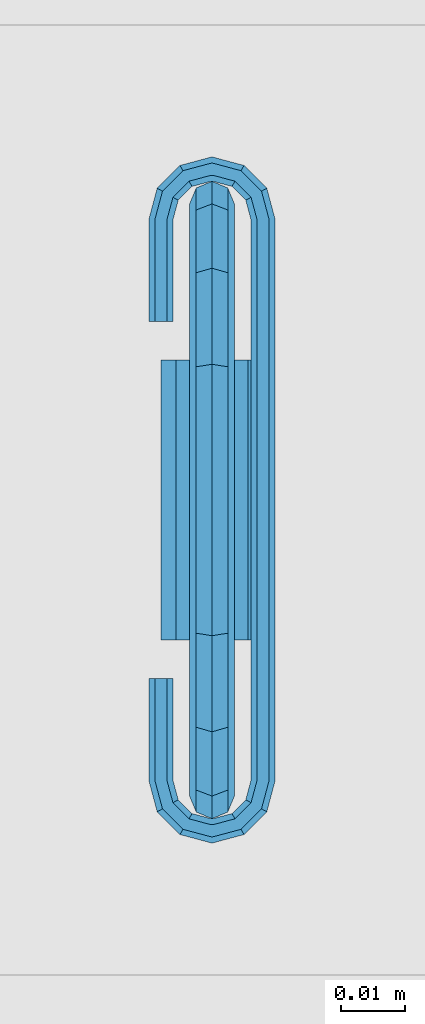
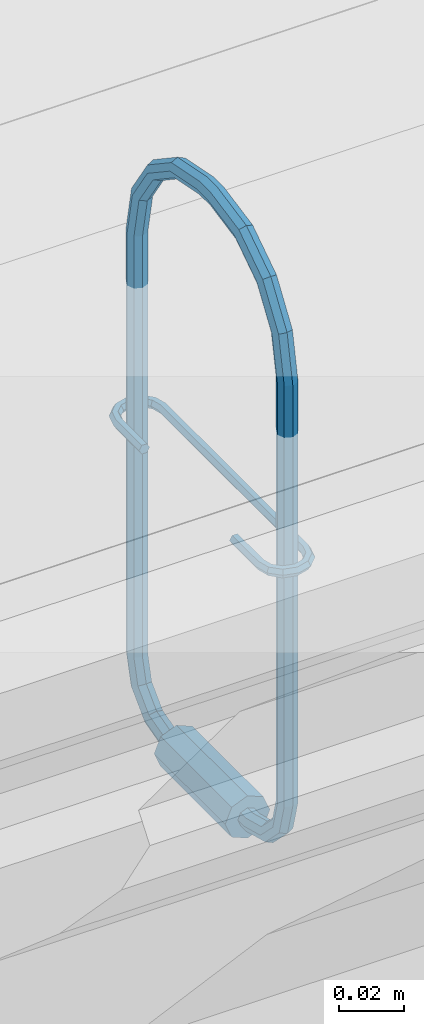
# One storey, part 165 of 230: 1 beam.
"""IFC4X3_ADD2 building model written with IfcOpenShell, lengths in millimetres."""

from ifc_helpers import new_model, si_unit, direction, origin_with_axes, place, context, subcontext, project, spatial, triangles, element, save


model = new_model("IFC4X3_ADD2")

# Units and contexts
model_context = context("Model", 3, precision=1e-05, world=origin_with_axes(), true_north=direction((0.0, 1.0)))
body_context = subcontext(model_context, "Body", "Model", "MODEL_VIEW")
ifc_project = project(units=[si_unit("LENGTHUNIT", "METRE", prefix="MILLI"), si_unit("AREAUNIT", "SQUARE_METRE"), si_unit("VOLUMEUNIT", "CUBIC_METRE"), si_unit("PLANEANGLEUNIT", "RADIAN"), si_unit("TIMEUNIT", "SECOND"), si_unit("MASSUNIT", "GRAM")], contexts=[model_context])

# Site, building, storey
site_placement = place(None, origin_with_axes())
site = spatial("IfcSite", under=ifc_project, at=site_placement, Name="Site", CompositionType="ELEMENT")
building_placement = place(site_placement, origin_with_axes())
building = spatial("IfcBuilding", under=site, at=building_placement, Name="IFC Building Story")
storey_placement = place(building_placement, origin_with_axes())
storey = spatial("IfcBuildingStorey", under=building, at=storey_placement, Name="ETAGE 00 (0)", Elevation=0.0)

# Beam
beam_placement = place(storey_placement, origin_with_axes())
element("IfcBeam", 1, at=beam_placement, inside=storey, Name="LU2", ObjectType="D7", context=body_context, shape_type="Tessellation", body=[
    triangles([(47798.66381835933, -12884.49959106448, 4036.025157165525), (47798.66381835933, -12888.00054016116, 4036.025157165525), (47796.18955078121, -12884.49959106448, 4034.999929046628), (47796.18955078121, -12888.00054016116, 4034.999929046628), (47799.68701171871, -12884.49959106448, 4038.500006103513), (47799.68701171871, -12888.00054016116, 4038.500006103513), (47798.66381835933, -12888.00054016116, 4040.974855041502), (47798.66381835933, -12884.49959106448, 4040.974855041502), (47796.18955078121, -12888.00054016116, 4042.000083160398), (47796.18955078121, -12884.49959106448, 4042.000083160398), (47793.71528320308, -12888.00054016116, 4040.974855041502), (47793.71528320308, -12884.49959106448, 4040.974855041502), (47792.6874389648, -12888.00054016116, 4038.500006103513), (47792.6874389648, -12884.49959106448, 4038.500006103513), (47793.71528320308, -12884.49959106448, 4036.025157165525), (47793.71528320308, -12888.00054016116, 4036.025157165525), (47796.18955078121, -12872.25033874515, 4038.282286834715), (47793.71528320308, -12872.76309814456, 4039.170023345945), (47796.18955078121, -12863.28228149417, 4047.250053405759), (47793.71528320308, -12864.17059936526, 4047.762522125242), (47798.66381835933, -12864.17059936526, 4047.762522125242), (47798.66381835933, -12872.76309814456, 4039.170023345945), (47799.68701171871, -12866.31349182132, 4048.999946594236), (47799.68701171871, -12874.00023193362, 4041.313497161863), (47798.66381835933, -12875.23736572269, 4043.456680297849), (47798.66381835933, -12868.45638427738, 4050.237371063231), (47796.18955078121, -12875.7501251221, 4044.34441680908), (47796.18955078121, -12869.34470214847, 4050.750130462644), (47793.71528320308, -12868.45638427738, 4050.237371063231), (47793.71528320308, -12875.23736572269, 4043.456680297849), (47792.6874389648, -12866.31349182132, 4048.999946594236), (47792.6874389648, -12874.00023193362, 4041.313497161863), (47793.71528320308, -12861.02544250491, 4059.499887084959), (47792.6874389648, -12863.49971008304, 4059.499887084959), (47796.18955078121, -12859.99992370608, 4059.499887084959), (47798.66381835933, -12861.02544250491, 4059.499887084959), (47799.68701171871, -12863.49971008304, 4059.499887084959), (47798.66381835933, -12865.97514038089, 4059.499887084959), (47796.18955078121, -12866.99949645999, 4059.499887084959), (47793.71528320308, -12865.97514038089, 4059.499887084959), (47793.71528320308, -12865.97514038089, 4218.50006561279), (47792.6874389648, -12863.49971008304, 4218.50006561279), (47793.71528320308, -12869.05983581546, 4234.008421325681), (47792.6874389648, -12866.77276611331, 4234.955456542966), (47793.71528320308, -12877.84418334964, 4247.155583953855), (47792.6874389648, -12876.09429016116, 4248.905477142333), (47793.71528320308, -12874.34439697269, 4250.65566101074), (47793.71528320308, -12864.48685913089, 4235.902491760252), (47796.18955078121, -12873.62002258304, 4251.38032608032), (47796.18955078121, -12863.53924255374, 4236.294909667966), (47798.66381835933, -12874.34439697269, 4250.65566101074), (47798.66381835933, -12864.48685913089, 4235.902491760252), (47799.68701171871, -12876.09429016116, 4248.905477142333), (47799.68701171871, -12866.77276611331, 4234.955456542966), (47798.66381835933, -12869.05983581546, 4234.008421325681), (47798.66381835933, -12877.84418334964, 4247.155583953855), (47796.18955078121, -12870.00628967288, 4233.616003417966), (47796.18955078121, -12878.56972045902, 4246.430628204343), (47796.18955078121, -12891.38405456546, 4254.993186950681), (47793.71528320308, -12890.99221801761, 4255.940222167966), (47792.6874389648, -12890.04460144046, 4258.226710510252), (47793.71528320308, -12889.09698486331, 4260.513198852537), (47796.18955078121, -12888.70514831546, 4261.460524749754), (47798.66381835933, -12889.09698486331, 4260.513198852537), (47799.68701171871, -12890.04460144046, 4258.226710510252), (47798.66381835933, -12890.99221801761, 4255.940222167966), (47798.66381835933, -12906.49941101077, 4259.025208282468), (47796.18955078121, -12906.49941101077, 4257.999980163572), (47793.71528320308, -12906.49941101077, 4259.025208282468), (47792.6874389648, -12906.49941101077, 4261.500057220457), (47793.71528320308, -12906.49941101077, 4263.974906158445), (47796.18955078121, -12906.49941101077, 4265.000134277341), (47798.66381835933, -12906.49941101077, 4263.974906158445), (47799.68701171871, -12906.49941101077, 4261.500057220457), (47799.68701171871, -12913.5001464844, 4261.500057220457), (47798.66381835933, -12913.5001464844, 4259.025208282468), (47799.68701171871, -12929.95495605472, 4258.226710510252), (47798.66381835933, -12929.0085021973, 4255.940222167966), (47799.68701171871, -12943.90526733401, 4248.905477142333), (47798.66381835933, -12942.15537414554, 4247.155583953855), (47796.18955078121, -12928.61550292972, 4254.993186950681), (47796.18955078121, -12941.43099975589, 4246.430628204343), (47793.71528320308, -12942.15537414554, 4247.155583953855), (47793.71528320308, -12929.0085021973, 4255.940222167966), (47792.6874389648, -12943.90526733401, 4248.905477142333), (47792.6874389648, -12929.95495605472, 4258.226710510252), (47793.71528320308, -12945.65516052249, 4250.65566101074), (47793.71528320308, -12930.90257263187, 4260.513198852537), (47796.18955078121, -12946.38069763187, 4251.38032608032), (47796.18955078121, -12931.29440917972, 4261.460524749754), (47798.66381835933, -12945.65516052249, 4250.65566101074), (47798.66381835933, -12930.90257263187, 4260.513198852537), (47799.68701171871, -12953.22679138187, 4234.955456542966), (47798.66381835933, -12955.51386108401, 4235.902491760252), (47798.66381835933, -12950.94088439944, 4234.008421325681), (47796.18955078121, -12949.9932678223, 4233.616003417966), (47793.71528320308, -12950.94088439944, 4234.008421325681), (47792.6874389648, -12953.22679138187, 4234.955456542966), (47793.71528320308, -12955.51386108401, 4235.902491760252), (47796.18955078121, -12956.46031494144, 4236.294909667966), (47798.66381835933, -12958.97527770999, 4218.50006561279), (47796.18955078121, -12959.99963378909, 4218.50006561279), (47799.68701171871, -12956.49984741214, 4218.50006561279), (47798.66381835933, -12954.02557983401, 4218.50006561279), (47796.18955078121, -12953.00006103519, 4218.50006561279), (47793.71528320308, -12954.02557983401, 4218.50006561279), (47792.6874389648, -12956.49984741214, 4218.50006561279), (47793.71528320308, -12958.97527770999, 4218.50006561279), (47796.18955078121, -12959.99963378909, 4059.499887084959), (47793.71528320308, -12958.97527770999, 4059.499887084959), (47796.18955078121, -12956.71727600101, 4047.250053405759), (47793.71528320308, -12955.83012084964, 4047.762522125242), (47796.18955078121, -12947.75038146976, 4038.282286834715), (47793.71528320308, -12947.23762207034, 4039.170023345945), (47798.66381835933, -12947.23762207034, 4039.170023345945), (47798.66381835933, -12955.83012084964, 4047.762522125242), (47799.68701171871, -12946.00048828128, 4041.313497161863), (47799.68701171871, -12953.68606567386, 4048.999946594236), (47798.66381835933, -12951.5431732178, 4050.237371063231), (47798.66381835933, -12944.76219177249, 4043.456680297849), (47796.18955078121, -12950.65485534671, 4050.750130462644), (47796.18955078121, -12944.24943237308, 4044.34441680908), (47793.71528320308, -12944.76219177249, 4043.456680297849), (47793.71528320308, -12951.5431732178, 4050.237371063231), (47792.6874389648, -12946.00048828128, 4041.313497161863), (47792.6874389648, -12953.68606567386, 4048.999946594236), (47793.71528320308, -12935.49996643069, 4036.025157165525), (47792.6874389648, -12935.49996643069, 4038.500006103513), (47796.18955078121, -12935.49996643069, 4034.999929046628), (47798.66381835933, -12935.49996643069, 4036.025157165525), (47799.68701171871, -12935.49996643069, 4038.500006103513), (47798.66381835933, -12935.49996643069, 4040.974855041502), (47796.18955078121, -12935.49996643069, 4042.000083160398), (47793.71528320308, -12935.49996643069, 4040.974855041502), (47793.71528320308, -12932.00018005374, 4040.974855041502), (47792.6874389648, -12932.00018005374, 4038.500006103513), (47796.18955078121, -12932.00018005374, 4042.000083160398), (47798.66381835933, -12932.00018005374, 4040.974855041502), (47799.68701171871, -12932.00018005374, 4038.500006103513), (47798.66381835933, -12932.00018005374, 4036.025157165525), (47796.18955078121, -12932.00018005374, 4034.999929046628), (47793.71528320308, -12932.00018005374, 4036.025157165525), (47804.18906249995, -12932.00018005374, 4038.500006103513), (47796.18955078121, -12932.00018005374, 4046.500099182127), (47790.53408203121, -12932.00018005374, 4044.156928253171), (47788.19003906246, -12932.00018005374, 4038.500006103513), (47801.84501953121, -12932.00018005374, 4044.156928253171), (47790.53408203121, -12932.00018005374, 4032.843083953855), (47796.18955078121, -12932.00018005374, 4030.4999130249), (47801.84501953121, -12932.00018005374, 4032.843083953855), (47801.84501953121, -12888.00054016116, 4032.843083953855), (47796.18955078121, -12888.00054016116, 4030.4999130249), (47804.18906249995, -12888.00054016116, 4038.500006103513), (47801.84501953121, -12888.00054016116, 4044.156928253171), (47796.18955078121, -12888.00054016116, 4046.500099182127), (47790.53408203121, -12888.00054016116, 4044.156928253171), (47788.19003906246, -12888.00054016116, 4038.500006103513), (47790.53408203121, -12888.00054016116, 4032.843083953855), (47792.6874389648, -12956.49984741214, 4059.499887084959), (47793.71528320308, -12954.02557983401, 4059.499887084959), (47796.18955078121, -12953.00006103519, 4059.499887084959), (47798.66381835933, -12954.02557983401, 4059.499887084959), (47799.68701171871, -12956.49984741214, 4059.499887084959), (47798.66381835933, -12958.97527770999, 4059.499887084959), (47798.66381835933, -12913.5001464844, 4263.974906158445), (47796.18955078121, -12913.5001464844, 4265.000134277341), (47793.71528320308, -12913.5001464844, 4263.974906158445), (47792.6874389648, -12913.5001464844, 4261.500057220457), (47793.71528320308, -12913.5001464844, 4259.025208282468), (47796.18955078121, -12913.5001464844, 4257.999980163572), (47796.18955078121, -12866.99949645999, 4218.50006561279), (47798.66381835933, -12865.97514038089, 4218.50006561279), (47799.68701171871, -12863.49971008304, 4218.50006561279), (47798.66381835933, -12861.02544250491, 4218.50006561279), (47796.18955078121, -12859.99992370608, 4218.50006561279), (47793.71528320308, -12861.02544250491, 4218.50006561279), (47790.08759765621, -12865.94025878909, 4149.999886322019), (47790.08759765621, -12881.99974365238, 4149.999886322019), (47789.13881835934, -12865.94025878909, 4148.354637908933), (47789.13881835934, -12881.99974365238, 4148.354637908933), (47790.88289794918, -12862.96950988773, 4149.999886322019), (47790.06434326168, -12862.49512023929, 4148.354637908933), (47792.58511962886, -12859.97318115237, 4148.354637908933), (47793.0595092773, -12860.79522399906, 4149.999886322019), (47792.58511962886, -12859.97318115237, 4151.645425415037), (47790.06434326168, -12862.49512023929, 4151.645425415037), (47796.02677001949, -12859.04998168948, 4151.645425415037), (47796.02677001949, -12857.15009765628, 4151.645425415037), (47791.63168945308, -12858.32793273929, 4151.645425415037), (47787.24125976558, -12954.06046142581, 4151.645425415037), (47790.06434326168, -12957.50443725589, 4151.645425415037), (47789.13881835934, -12954.06046142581, 4151.645425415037), (47787.24125976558, -12937.9998138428, 4151.645425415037), (47788.41793212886, -12958.45554199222, 4151.645425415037), (47789.13881835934, -12937.9998138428, 4151.645425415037), (47791.63168945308, -12961.67278747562, 4151.645425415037), (47796.02677001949, -12960.94957580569, 4151.645425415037), (47792.58511962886, -12960.0263763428, 4151.645425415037), (47796.02677001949, -12962.8494598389, 4151.645425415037), (47787.24125976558, -12865.94025878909, 4151.645425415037), (47788.41793212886, -12861.54517822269, 4151.645425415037), (47787.24125976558, -12881.99974365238, 4151.645425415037), (47789.13881835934, -12865.94025878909, 4151.645425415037), (47789.13881835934, -12881.99974365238, 4151.645425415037), (47799.79398193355, -12960.0263763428, 4151.645425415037), (47800.74276123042, -12961.67278747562, 4151.645425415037), (47803.96116943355, -12958.45554199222, 4151.645425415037), (47796.34768066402, -12962.8494598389, 4151.645425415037), (47796.34768066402, -12960.94957580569, 4151.645425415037), (47802.31475830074, -12957.50443725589, 4151.645425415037), (47805.13784179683, -12954.06046142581, 4151.645425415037), (47803.24028320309, -12954.06046142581, 4151.645425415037), (47803.24028320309, -12865.94025878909, 4151.645425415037), (47800.74276123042, -12858.32793273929, 4151.645425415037), (47799.79398193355, -12859.97318115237, 4151.645425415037), (47803.96116943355, -12861.54517822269, 4151.645425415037), (47796.34768066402, -12857.15009765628, 4151.645425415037), (47796.34768066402, -12859.04998168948, 4151.645425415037), (47805.13784179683, -12865.94025878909, 4151.645425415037), (47802.31475830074, -12862.49512023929, 4151.645425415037), (47787.24125976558, -12937.9998138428, 4148.354637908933), (47789.13881835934, -12937.9998138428, 4148.354637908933), (47790.08759765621, -12937.9998138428, 4149.999886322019), (47786.2878295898, -12937.9998138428, 4149.999886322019), (47790.08759765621, -12954.06046142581, 4149.999886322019), (47789.13881835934, -12954.06046142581, 4148.354637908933), (47791.63168945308, -12961.67278747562, 4148.354637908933), (47796.02677001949, -12960.94957580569, 4148.354637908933), (47796.02677001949, -12962.8494598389, 4148.354637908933), (47787.24125976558, -12865.94025878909, 4148.354637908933), (47787.24125976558, -12881.99974365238, 4148.354637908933), (47788.41793212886, -12861.54517822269, 4148.354637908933), (47791.63168945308, -12858.32793273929, 4148.354637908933), (47796.02677001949, -12859.04998168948, 4148.354637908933), (47796.02677001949, -12857.15009765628, 4148.354637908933), (47787.24125976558, -12954.06046142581, 4148.354637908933), (47790.06434326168, -12957.50443725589, 4148.354637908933), (47788.41793212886, -12958.45554199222, 4148.354637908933), (47792.58511962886, -12960.0263763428, 4148.354637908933), (47799.79398193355, -12859.97318115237, 4148.354637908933), (47800.74276123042, -12858.32793273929, 4148.354637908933), (47803.96116943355, -12861.54517822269, 4148.354637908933), (47796.34768066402, -12857.15009765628, 4148.354637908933), (47796.34768066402, -12859.04998168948, 4148.354637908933), (47802.31475830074, -12862.49512023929, 4148.354637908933), (47805.13784179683, -12865.94025878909, 4148.354637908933), (47803.24028320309, -12865.94025878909, 4148.354637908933), (47803.24028320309, -12954.06046142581, 4148.354637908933), (47800.74276123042, -12961.67278747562, 4148.354637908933), (47799.79398193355, -12960.0263763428, 4148.354637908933), (47803.96116943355, -12958.45554199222, 4148.354637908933), (47796.34768066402, -12962.8494598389, 4148.354637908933), (47796.34768066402, -12960.94957580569, 4148.354637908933), (47805.13784179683, -12954.06046142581, 4148.354637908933), (47802.31475830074, -12957.50443725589, 4148.354637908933), (47786.2878295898, -12954.06046142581, 4149.999886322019), (47787.59472656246, -12958.92993164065, 4149.999886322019), (47791.15729980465, -12962.4948303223, 4149.999886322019), (47796.02677001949, -12963.7994018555, 4149.999886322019), (47796.34768066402, -12963.7994018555, 4149.999886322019), (47801.21715087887, -12962.4948303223, 4149.999886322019), (47804.78437499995, -12958.92993164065, 4149.999886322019), (47806.09127197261, -12954.06046142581, 4149.999886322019), (47806.09127197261, -12865.94025878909, 4149.999886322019), (47804.78437499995, -12861.06962585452, 4149.999886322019), (47801.21715087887, -12857.50472717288, 4149.999886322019), (47796.34768066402, -12856.20015563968, 4149.999886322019), (47796.02677001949, -12856.20015563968, 4149.999886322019), (47791.15729980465, -12857.50472717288, 4149.999886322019), (47787.59472656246, -12861.06962585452, 4149.999886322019), (47786.2878295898, -12865.94025878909, 4149.999886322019), (47786.2878295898, -12881.99974365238, 4149.999886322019), (47796.02677001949, -12859.99992370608, 4149.999886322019), (47796.34768066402, -12859.99992370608, 4149.999886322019), (47799.31959228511, -12860.79522399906, 4149.999886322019), (47801.49155273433, -12862.96950988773, 4149.999886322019), (47802.2868530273, -12865.94025878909, 4149.999886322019), (47802.2868530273, -12954.06046142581, 4149.999886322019), (47801.49155273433, -12957.03004760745, 4149.999886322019), (47799.31959228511, -12959.20433349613, 4149.999886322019), (47796.34768066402, -12959.99963378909, 4149.999886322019), (47796.02677001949, -12959.99963378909, 4149.999886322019), (47793.0595092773, -12959.20433349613, 4149.999886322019), (47790.88289794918, -12957.03004760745, 4149.999886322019)], [[1, 2, 3], [4, 3, 2], [5, 6, 1], [2, 1, 6], [6, 5, 7], [8, 7, 5], [7, 8, 9], [10, 9, 8], [9, 10, 11], [12, 11, 10], [11, 12, 13], [14, 13, 12], [15, 16, 14], [13, 14, 16], [3, 4, 15], [16, 15, 4], [17, 3, 18], [15, 18, 3], [19, 17, 20], [18, 20, 17], [21, 22, 17], [17, 19, 21], [23, 24, 22], [22, 21, 23], [24, 23, 25], [26, 25, 23], [25, 26, 27], [28, 27, 26], [27, 28, 29], [29, 30, 27], [30, 29, 31], [31, 32, 30], [20, 18, 31], [32, 31, 18], [33, 20, 34], [31, 34, 20], [35, 19, 33], [20, 33, 19], [36, 21, 19], [19, 35, 36], [37, 23, 21], [21, 36, 37], [23, 37, 26], [38, 26, 37], [26, 38, 28], [39, 28, 38], [28, 39, 40], [40, 29, 28], [29, 40, 34], [34, 31, 29], [40, 41, 42], [42, 34, 40], [41, 43, 44], [44, 42, 41], [43, 45, 46], [46, 44, 43], [47, 48, 46], [44, 46, 48], [49, 50, 47], [48, 47, 50], [51, 52, 50], [50, 49, 51], [53, 54, 52], [52, 51, 53], [54, 53, 55], [56, 55, 53], [55, 56, 57], [58, 57, 56], [57, 58, 45], [45, 43, 57], [58, 59, 60], [60, 45, 58], [45, 60, 61], [61, 46, 45], [62, 47, 61], [46, 61, 47], [63, 49, 62], [47, 62, 49], [64, 51, 49], [49, 63, 64], [65, 53, 51], [51, 64, 65], [53, 65, 56], [66, 56, 65], [56, 66, 58], [59, 58, 66], [66, 67, 59], [68, 59, 67], [59, 68, 69], [69, 60, 59], [60, 69, 70], [70, 61, 60], [71, 62, 70], [61, 70, 62], [72, 63, 71], [62, 71, 63], [73, 64, 63], [63, 72, 73], [74, 65, 64], [64, 73, 74], [65, 74, 66], [67, 66, 74], [74, 75, 67], [76, 67, 75], [75, 77, 76], [78, 76, 77], [77, 79, 78], [80, 78, 79], [78, 80, 81], [82, 81, 80], [81, 82, 83], [83, 84, 81], [84, 83, 85], [85, 86, 84], [87, 88, 85], [86, 85, 88], [89, 90, 87], [88, 87, 90], [91, 92, 90], [90, 89, 91], [79, 77, 92], [92, 91, 79], [93, 79, 91], [91, 94, 93], [79, 93, 80], [95, 80, 93], [80, 95, 82], [96, 82, 95], [82, 96, 97], [97, 83, 82], [83, 97, 98], [98, 85, 83], [99, 87, 98], [85, 98, 87], [100, 89, 99], [87, 99, 89], [94, 91, 89], [89, 100, 94], [101, 94, 100], [100, 102, 101], [103, 93, 94], [94, 101, 103], [93, 103, 95], [104, 95, 103], [95, 104, 96], [105, 96, 104], [96, 105, 106], [106, 97, 96], [97, 106, 107], [107, 98, 97], [108, 99, 107], [98, 107, 99], [102, 100, 108], [99, 108, 100], [109, 102, 110], [108, 110, 102], [111, 109, 112], [110, 112, 109], [113, 111, 114], [112, 114, 111], [115, 116, 111], [111, 113, 115], [117, 118, 116], [116, 115, 117], [118, 117, 119], [120, 119, 117], [119, 120, 121], [122, 121, 120], [121, 122, 123], [123, 124, 121], [124, 123, 125], [125, 126, 124], [114, 112, 125], [126, 125, 112], [127, 114, 128], [125, 128, 114], [129, 113, 127], [114, 127, 113], [130, 115, 113], [113, 129, 130], [131, 117, 115], [115, 130, 131], [117, 131, 120], [132, 120, 131], [120, 132, 122], [133, 122, 132], [122, 133, 134], [134, 123, 122], [123, 134, 128], [128, 125, 123], [134, 135, 136], [136, 128, 134], [133, 137, 134], [135, 134, 137], [132, 138, 137], [137, 133, 132], [131, 139, 132], [138, 132, 139], [139, 131, 130], [130, 140, 139], [140, 130, 141], [129, 141, 130], [141, 129, 127], [127, 142, 141], [142, 127, 136], [128, 136, 127], [138, 139, 143], [135, 137, 144], [144, 145, 135], [146, 136, 135], [146, 135, 145], [147, 137, 138], [137, 147, 144], [138, 143, 147], [148, 136, 146], [142, 149, 141], [142, 136, 148], [148, 149, 142], [150, 143, 139], [139, 140, 150], [141, 150, 140], [150, 141, 149], [151, 150, 152], [149, 152, 150], [153, 143, 151], [150, 151, 143], [143, 153, 147], [154, 147, 153], [147, 154, 144], [155, 144, 154], [144, 155, 145], [156, 145, 155], [145, 156, 146], [157, 146, 156], [158, 148, 157], [146, 157, 148], [152, 149, 158], [148, 158, 149], [11, 13, 157], [7, 9, 155], [155, 154, 7], [153, 6, 7], [153, 7, 154], [156, 9, 11], [9, 156, 155], [11, 157, 156], [151, 6, 153], [2, 152, 4], [2, 6, 151], [151, 152, 2], [158, 157, 13], [13, 16, 158], [4, 158, 16], [158, 4, 152], [112, 110, 126], [159, 126, 110], [160, 124, 126], [126, 159, 160], [161, 121, 124], [124, 160, 161], [162, 119, 161], [121, 161, 119], [163, 118, 162], [119, 162, 118], [118, 163, 164], [164, 116, 118], [116, 164, 109], [109, 111, 116], [164, 101, 102], [102, 109, 164], [163, 103, 164], [101, 164, 103], [103, 163, 104], [162, 104, 163], [104, 162, 105], [161, 105, 162], [105, 161, 160], [160, 106, 105], [106, 160, 159], [159, 107, 106], [110, 108, 107], [107, 159, 110], [77, 75, 165], [165, 92, 77], [92, 165, 166], [166, 90, 92], [90, 166, 88], [167, 88, 166], [88, 167, 86], [168, 86, 167], [169, 84, 86], [86, 168, 169], [170, 81, 84], [84, 169, 170], [76, 78, 170], [81, 170, 78], [67, 76, 68], [170, 68, 76], [68, 170, 169], [169, 69, 68], [69, 169, 168], [168, 70, 69], [167, 71, 70], [70, 168, 167], [166, 72, 71], [71, 167, 166], [165, 73, 166], [72, 166, 73], [75, 74, 165], [73, 165, 74], [171, 57, 43], [43, 41, 171], [172, 55, 171], [57, 171, 55], [173, 54, 172], [55, 172, 54], [54, 173, 174], [174, 52, 54], [52, 174, 175], [175, 50, 52], [50, 175, 48], [176, 48, 175], [48, 176, 44], [42, 44, 176], [176, 33, 34], [34, 42, 176], [175, 35, 176], [33, 176, 35], [174, 36, 35], [35, 175, 174], [173, 37, 174], [36, 174, 37], [37, 173, 38], [172, 38, 173], [38, 172, 39], [171, 39, 172], [39, 171, 41], [41, 40, 39], [18, 15, 32], [14, 32, 15], [12, 30, 32], [32, 14, 12], [10, 27, 30], [30, 12, 10], [8, 25, 10], [27, 10, 25], [5, 24, 8], [25, 8, 24], [24, 5, 1], [1, 22, 24], [22, 1, 3], [3, 17, 22], [177, 178, 179], [180, 179, 178], [181, 177, 179], [179, 182, 181], [183, 184, 181], [181, 182, 183], [184, 185, 181], [186, 181, 185], [187, 188, 189], [190, 191, 192], [190, 192, 193], [190, 194, 191], [195, 193, 192], [196, 197, 198], [198, 191, 194], [199, 197, 196], [196, 198, 194], [200, 186, 201], [202, 203, 200], [204, 203, 202], [200, 203, 186], [185, 189, 201], [201, 186, 185], [189, 185, 187], [205, 206, 207], [197, 199, 208], [208, 209, 197], [209, 206, 205], [206, 209, 208], [210, 207, 211], [207, 210, 205], [212, 211, 213], [211, 212, 210], [214, 215, 216], [217, 188, 187], [187, 218, 217], [218, 215, 214], [214, 217, 218], [213, 219, 220], [219, 213, 211], [220, 216, 215], [216, 220, 219], [195, 221, 193], [222, 195, 223], [193, 221, 224], [195, 222, 221], [223, 225, 226], [226, 222, 223], [227, 228, 229], [230, 182, 179], [230, 179, 231], [230, 232, 182], [180, 231, 179], [233, 234, 183], [183, 182, 232], [235, 234, 233], [233, 183, 232], [236, 237, 238], [221, 226, 236], [222, 226, 221], [236, 226, 237], [239, 227, 238], [238, 237, 239], [227, 239, 228], [240, 241, 242], [243, 234, 235], [243, 244, 234], [244, 243, 241], [240, 244, 241], [245, 242, 246], [242, 245, 240], [247, 246, 248], [246, 247, 245], [249, 250, 251], [252, 229, 228], [228, 253, 252], [253, 250, 249], [249, 252, 253], [248, 254, 255], [254, 248, 246], [255, 251, 250], [251, 255, 254], [221, 236, 256], [256, 224, 221], [190, 193, 256], [224, 256, 193], [257, 194, 256], [190, 256, 194], [238, 257, 256], [256, 236, 238], [227, 258, 238], [257, 238, 258], [258, 196, 194], [194, 257, 258], [259, 199, 196], [196, 258, 259], [260, 208, 259], [199, 259, 208], [261, 206, 260], [208, 260, 206], [249, 261, 260], [260, 252, 249], [252, 260, 259], [259, 229, 252], [229, 259, 227], [258, 227, 259], [251, 262, 261], [261, 249, 251], [262, 207, 261], [206, 261, 207], [263, 211, 207], [207, 262, 263], [263, 264, 211], [219, 211, 264], [219, 264, 216], [265, 216, 264], [264, 246, 242], [242, 265, 264], [264, 263, 254], [254, 246, 264], [254, 263, 251], [262, 251, 263], [265, 242, 266], [241, 266, 242], [216, 265, 266], [266, 214, 216], [214, 266, 267], [267, 217, 214], [217, 267, 268], [268, 188, 217], [188, 268, 189], [269, 189, 268], [268, 235, 233], [233, 269, 268], [267, 243, 268], [235, 268, 243], [266, 241, 267], [243, 267, 241], [269, 233, 232], [232, 270, 269], [189, 269, 201], [270, 201, 269], [201, 270, 271], [271, 200, 201], [202, 200, 272], [271, 272, 200], [202, 180, 204], [231, 202, 272], [204, 180, 178], [202, 231, 180], [230, 231, 271], [272, 271, 231], [270, 232, 271], [230, 271, 232], [178, 177, 203], [203, 204, 178], [177, 181, 203], [186, 203, 181], [234, 273, 184], [184, 183, 234], [273, 187, 184], [185, 184, 187], [274, 218, 273], [187, 273, 218], [275, 215, 218], [218, 274, 275], [276, 220, 215], [215, 275, 276], [213, 220, 276], [276, 277, 213], [212, 213, 277], [277, 278, 212], [210, 212, 279], [278, 279, 212], [210, 279, 205], [280, 205, 279], [205, 280, 209], [281, 209, 280], [209, 281, 197], [282, 197, 281], [197, 282, 283], [283, 198, 197], [198, 283, 284], [284, 191, 198], [284, 225, 192], [192, 191, 284], [225, 223, 192], [195, 192, 223], [225, 284, 226], [237, 226, 284], [283, 239, 284], [237, 284, 239], [282, 228, 283], [239, 283, 228], [281, 253, 228], [228, 282, 281], [280, 250, 253], [253, 281, 280], [279, 255, 250], [250, 280, 279], [248, 255, 279], [279, 278, 248], [247, 248, 277], [278, 277, 248], [245, 247, 276], [277, 276, 247], [245, 276, 240], [275, 240, 276], [240, 275, 244], [274, 244, 275], [244, 274, 273], [273, 234, 244]]),
])

save(model, "model.ifc")
